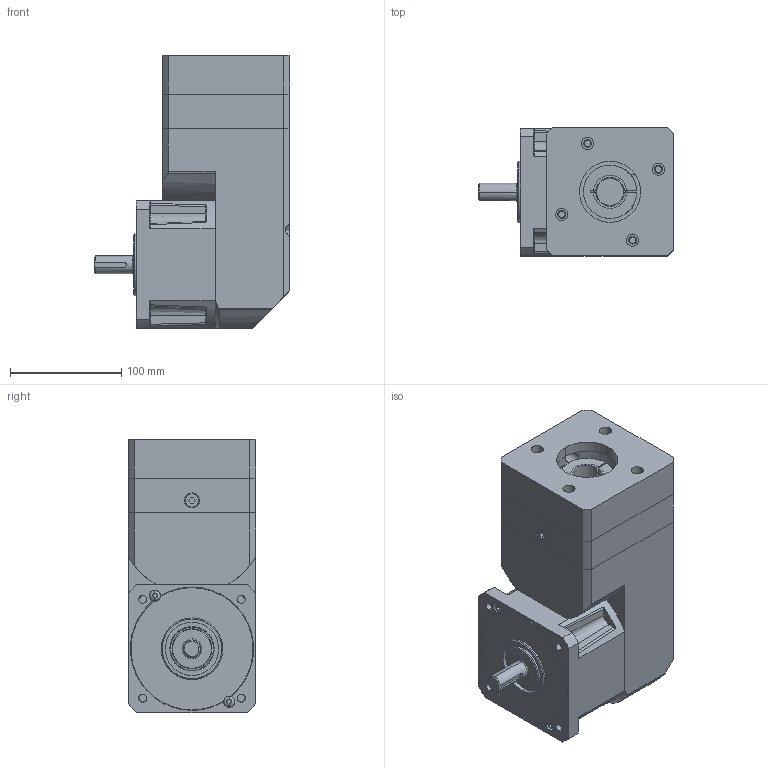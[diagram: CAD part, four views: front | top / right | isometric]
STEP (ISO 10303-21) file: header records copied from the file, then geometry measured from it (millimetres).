
FILE_DESCRIPTION((''),'2;1');
FILE_NAME('GEN_II_RX42_LONG_ADAPT','2008-11-20T',('aza7363'),(''),'PRO/ENGINEER BY PARAMETRIC TECHNOLOGY CORPORATION, 2006300','PRO/ENGINEER BY PARAMETRIC TECHNOLOGY CORPORATION, 2006300','');
FILE_SCHEMA(('CONFIG_CONTROL_DESIGN'));
Length unit declared in the file: millimetre
Products named in the file (1): GEN_II_RX42_LONG_ADAPT
Bounding box: 176.4 x 115 x 246 mm (x, y, z)
Surface area: 202337.4 mm2 (no closed solid volume)
Topology: 0 solids, 31 shells, 366 faces, 1073 edges, 746 vertices
Faces by surface type: plane 169, cylinder 125, bspline 32, cone 26, torus 14
Entity records: 14197 total; most frequent: CARTESIAN_POINT 4584, DIRECTION 2006, ORIENTED_EDGE 1796, EDGE_CURVE 1073, VERTEX_POINT 746, AXIS2_PLACEMENT_3D 736, VECTOR 534, LINE 534
